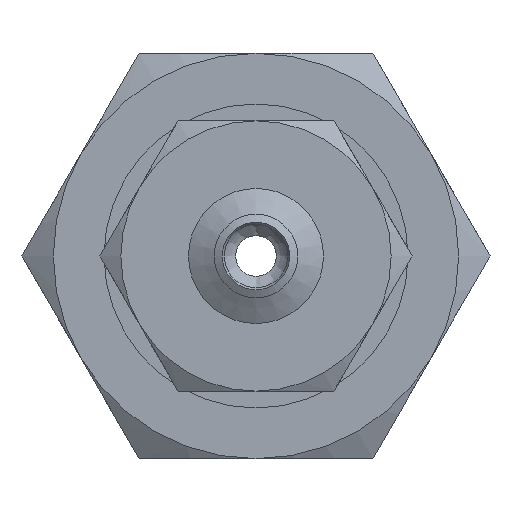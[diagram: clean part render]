
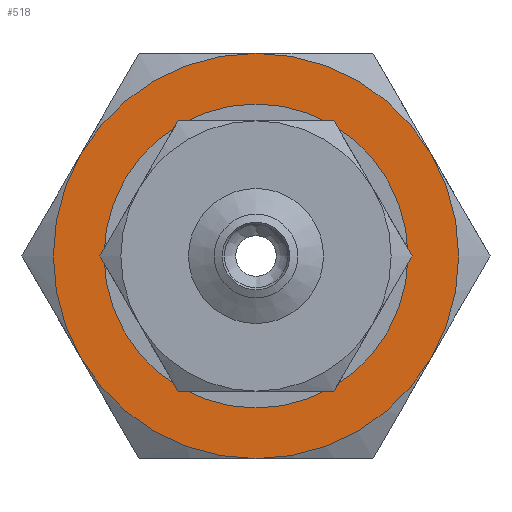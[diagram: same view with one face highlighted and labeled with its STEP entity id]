
A CAD part, front view. The second image highlights one B-rep face of the part: STEP entity #518.
In plain terms, the highlighted planar face has unit normal (0, -1, 0) as drawn and (-1, 0, 0) by its records, which use the part's own axes.
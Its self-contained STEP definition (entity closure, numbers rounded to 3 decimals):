
#518=ADVANCED_FACE('',(#716,#717),#718,.F.);
#716=FACE_BOUND('',#1005,.T.);
#717=FACE_OUTER_BOUND('',#1006,.T.);
#718=PLANE('',#1007);
#1005=EDGE_LOOP('',(#1620));
#1006=EDGE_LOOP('',(#1621,#1622,#1623,#1624,#1625,#1626));
#1007=AXIS2_PLACEMENT_3D('',#1627,#1628,#1629);
#1620=ORIENTED_EDGE('',*,*,#2074,.T.);
#1621=ORIENTED_EDGE('',*,*,#2075,.F.);
#1622=ORIENTED_EDGE('',*,*,#2056,.F.);
#1623=ORIENTED_EDGE('',*,*,#2054,.F.);
#1624=ORIENTED_EDGE('',*,*,#2042,.F.);
#1625=ORIENTED_EDGE('',*,*,#2041,.F.);
#1626=ORIENTED_EDGE('',*,*,#2073,.F.);
#1627=CARTESIAN_POINT('',(0.,0.0,0.0));
#1628=DIRECTION('',(1.0,0.0,0.0));
#1629=DIRECTION('',(0.0,1.0,0.0));
#2041=EDGE_CURVE('',#2312,#2315,#2317,.T.);
#2042=EDGE_CURVE('',#2315,#2318,#2319,.T.);
#2054=EDGE_CURVE('',#2318,#2335,#2338,.T.);
#2056=EDGE_CURVE('',#2335,#2340,#2341,.T.);
#2073=EDGE_CURVE('',#2361,#2312,#2366,.T.);
#2074=EDGE_CURVE('',#2367,#2367,#2368,.T.);
#2075=EDGE_CURVE('',#2340,#2361,#2369,.T.);
#2312=VERTEX_POINT('',#2796);
#2315=VERTEX_POINT('',#2819);
#2317=CIRCLE('',#2831,6.0);
#2318=VERTEX_POINT('',#2832);
#2319=CIRCLE('',#2833,6.0);
#2335=VERTEX_POINT('',#2902);
#2338=CIRCLE('',#2925,6.0);
#2340=VERTEX_POINT('',#2937);
#2341=CIRCLE('',#2938,6.0);
#2361=VERTEX_POINT('',#3019);
#2366=CIRCLE('',#3044,6.0);
#2367=VERTEX_POINT('',#3045);
#2368=CIRCLE('',#3046,4.0);
#2369=CIRCLE('',#3047,6.0);
#2796=CARTESIAN_POINT('',(0.,0.0,6.0));
#2819=CARTESIAN_POINT('',(0.,-5.196,3.0));
#2831=AXIS2_PLACEMENT_3D('',#3342,#3343,#3344);
#2832=CARTESIAN_POINT('',(0.,-5.196,-3.0));
#2833=AXIS2_PLACEMENT_3D('',#3345,#3346,#3347);
#2902=CARTESIAN_POINT('',(0.,0.0,-6.0));
#2925=AXIS2_PLACEMENT_3D('',#3354,#3355,#3356);
#2937=CARTESIAN_POINT('',(0.,5.196,-3.0));
#2938=AXIS2_PLACEMENT_3D('',#3357,#3358,#3359);
#3019=CARTESIAN_POINT('',(0.,5.196,3.0));
#3044=AXIS2_PLACEMENT_3D('',#3382,#3383,#3384);
#3045=CARTESIAN_POINT('',(0.,0.0,-4.0));
#3046=AXIS2_PLACEMENT_3D('',#3385,#3386,#3387);
#3047=AXIS2_PLACEMENT_3D('',#3388,#3389,#3390);
#3342=CARTESIAN_POINT('',(0.,0.0,0.0));
#3343=DIRECTION('',(1.0,0.0,0.0));
#3344=DIRECTION('',(0.0,0.0,-1.0));
#3345=CARTESIAN_POINT('',(0.,0.0,0.0));
#3346=DIRECTION('',(1.0,0.0,0.0));
#3347=DIRECTION('',(0.0,0.0,-1.0));
#3354=CARTESIAN_POINT('',(0.,0.0,0.0));
#3355=DIRECTION('',(1.0,0.0,0.0));
#3356=DIRECTION('',(0.0,0.0,-1.0));
#3357=CARTESIAN_POINT('',(0.,0.0,0.0));
#3358=DIRECTION('',(1.0,0.0,0.0));
#3359=DIRECTION('',(0.0,0.0,-1.0));
#3382=CARTESIAN_POINT('',(0.,0.0,0.0));
#3383=DIRECTION('',(1.0,0.0,0.0));
#3384=DIRECTION('',(0.0,0.0,-1.0));
#3385=CARTESIAN_POINT('',(0.,0.0,0.0));
#3386=DIRECTION('',(1.0,0.0,0.0));
#3387=DIRECTION('',(0.0,0.0,-1.0));
#3388=CARTESIAN_POINT('',(0.,0.0,0.0));
#3389=DIRECTION('',(1.0,0.0,0.0));
#3390=DIRECTION('',(0.0,0.0,-1.0));
